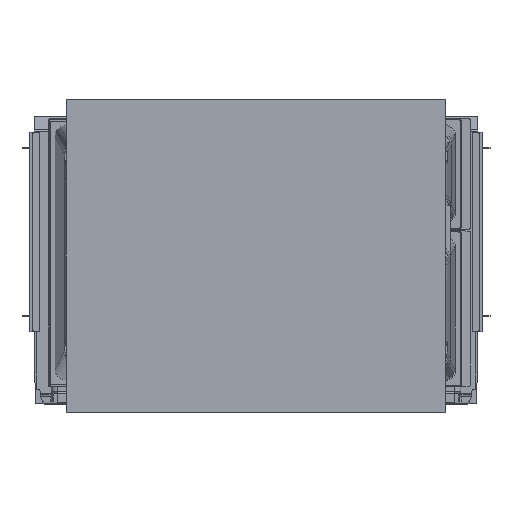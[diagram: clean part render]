
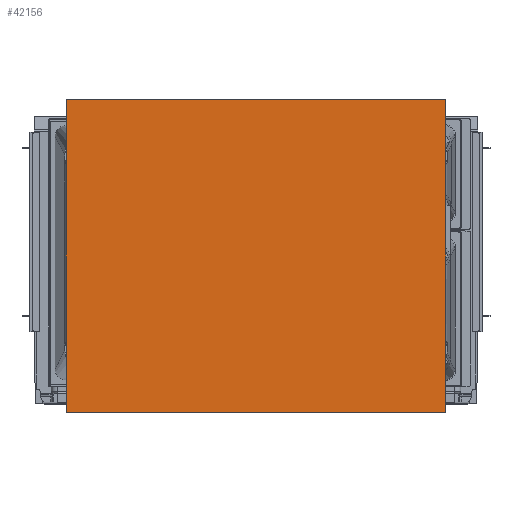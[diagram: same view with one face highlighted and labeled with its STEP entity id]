
A CAD part, front view. The second image highlights one B-rep face of the part: STEP entity #42156.
In plain terms, the highlighted planar face has unit normal (0, -1, 0).
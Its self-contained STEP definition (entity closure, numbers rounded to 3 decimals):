
#12039=DIRECTION('',(0.,0.,1.));
#12040=VECTOR('',#12039,393.);
#12041=CARTESIAN_POINT('',(238.5,-16.,-374.));
#12042=LINE('',#12041,#12040);
#12863=DIRECTION('',(-1.,0.,0.));
#12864=VECTOR('',#12863,477.);
#12865=CARTESIAN_POINT('',(238.5,-16.,19.));
#12866=LINE('',#12865,#12864);
#12867=DIRECTION('',(0.,0.,1.));
#12868=VECTOR('',#12867,393.);
#12869=CARTESIAN_POINT('',(-238.5,-16.,-374.));
#12870=LINE('',#12869,#12868);
#12871=DIRECTION('',(-1.,0.,0.));
#12872=VECTOR('',#12871,477.);
#12873=CARTESIAN_POINT('',(238.5,-16.,-374.));
#12874=LINE('',#12873,#12872);
#21200=CARTESIAN_POINT('',(-238.5,-16.,19.));
#21201=VERTEX_POINT('',#21200);
#21202=CARTESIAN_POINT('',(-238.5,-16.,-374.));
#21203=VERTEX_POINT('',#21202);
#21208=CARTESIAN_POINT('',(238.5,-16.,-374.));
#21209=VERTEX_POINT('',#21208);
#21210=CARTESIAN_POINT('',(238.5,-16.,19.));
#21211=VERTEX_POINT('',#21210);
#42145=CARTESIAN_POINT('',(-238.5,-16.,19.));
#42146=DIRECTION('',(0.,-1.,0.));
#42147=DIRECTION('',(0.,0.,-1.));
#42148=AXIS2_PLACEMENT_3D('',#42145,#42146,#42147);
#42149=PLANE('',#42148);
#42150=ORIENTED_EDGE('',*,*,#42113,.T.);
#42151=ORIENTED_EDGE('',*,*,#42140,.F.);
#42152=ORIENTED_EDGE('',*,*,#40929,.F.);
#42153=ORIENTED_EDGE('',*,*,#40958,.T.);
#42154=EDGE_LOOP('',(#42150,#42151,#42152,#42153));
#42155=FACE_OUTER_BOUND('',#42154,.F.);
#40929=EDGE_CURVE('',#21209,#21211,#12042,.T.);
#40958=EDGE_CURVE('',#21209,#21203,#12874,.T.);
#42113=EDGE_CURVE('',#21203,#21201,#12870,.T.);
#42140=EDGE_CURVE('',#21211,#21201,#12866,.T.);
#42156=ADVANCED_FACE('',(#42155),#42149,.T.);
